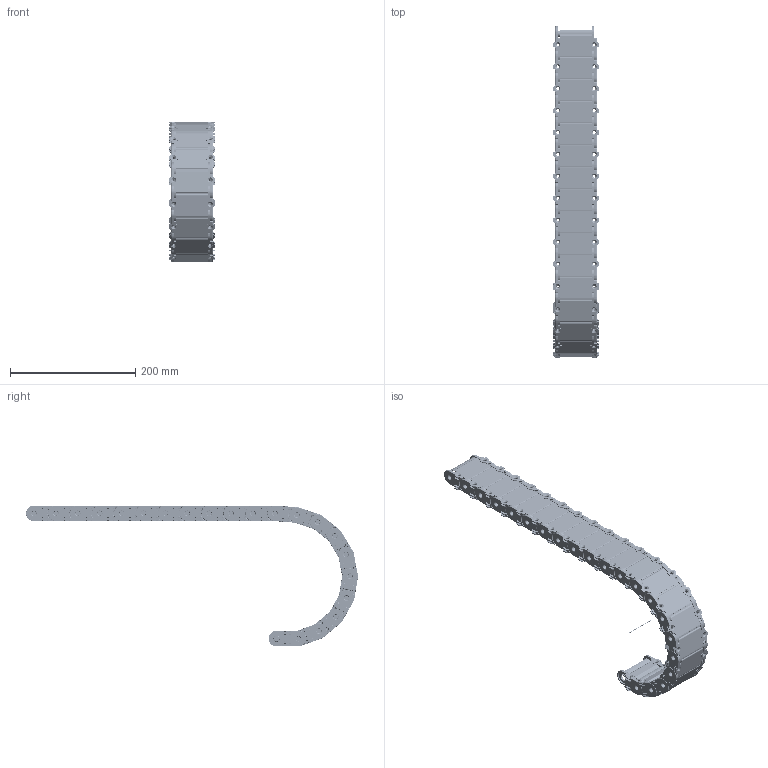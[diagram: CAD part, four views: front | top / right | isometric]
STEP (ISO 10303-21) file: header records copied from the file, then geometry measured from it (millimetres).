
FILE_DESCRIPTION((''),'2;1');
FILE_NAME('C:\Uebbing\TRACE PARTS\PKK 125\PKK 125 vereinfacht PARAMETRISCH.stp','2013-04-30T14:20:12',('Uebbing'),(''),'Autodesk Inventor 10','Autodesk Inventor 10','');
FILE_SCHEMA(('AUTOMOTIVE_DESIGN { 1 0 10303 214 1 1 1 1 }'));
Length unit declared in the file: millimetre
Products named in the file (7): PKK 125 vereinfacht PARAMETRISCH; PKK 125 Gliedvereinfacht; PKK 120 Laschevereinfacht; PKK 125 ASI; PKK 125 ASA; PKK 125 PZGvereinfacht; Achse
Assembly tree (27 placements, depth 3):
  PKK 125 vereinfacht PARAMETRISCH
    PKK 125 Gliedvereinfacht  x21
      PKK 120 Laschevereinfacht
      PKK 125 ASI
      PKK 125 ASA
      PKK 125 PZGvereinfacht
    Achse
Bounding box: 72 x 529.83 x 225 mm (x, y, z)
Volume: 365000 mm3; surface area: 440980.7 mm2
Topology: 106 solids, 106 shells, 5400 faces, 13717 edges, 8907 vertices
Faces by surface type: plane 2396, cylinder 1660, bspline 924, torus 336, cone 84
Full cylindrical faces by diameter (mm): 1 x1, 4.3 x42, 7.2 x42, 10 x42, 10.1 x42, 12.9 x84, 21.4 x84
Entity records: 5477 total; most frequent: CARTESIAN_POINT 1055, DIRECTION 911, ORIENTED_EDGE 834, EDGE_CURVE 417, AXIS2_PLACEMENT_3D 318, VERTEX_POINT 280, VECTOR 275, LINE 275
